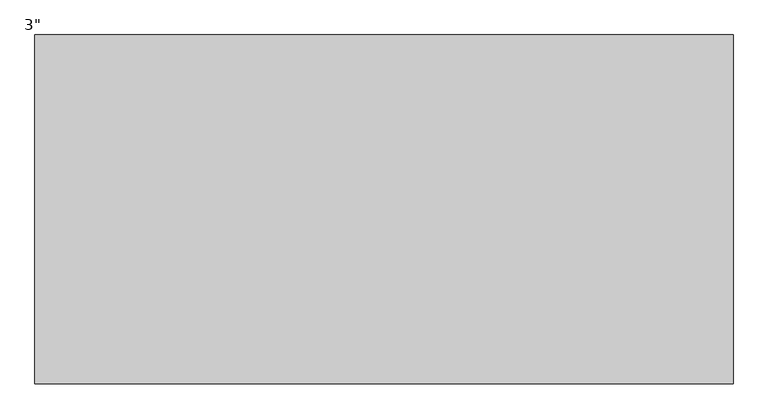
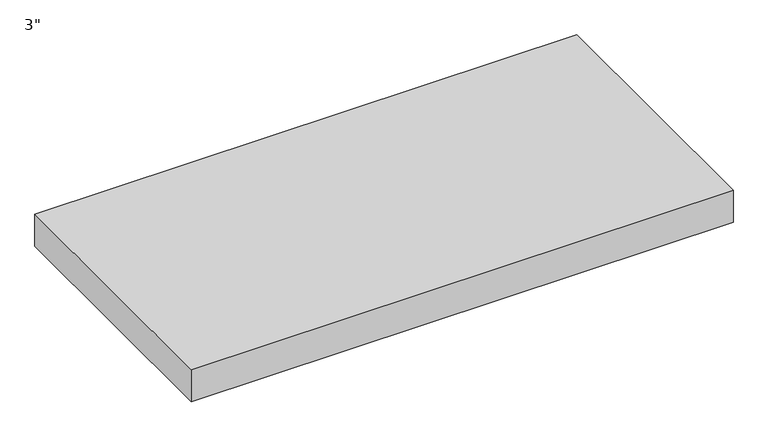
"""IFC4 building model written with IfcOpenShell, lengths in millimetres: proxy geometry."""

from ifc_helpers import new_model, si_unit, origin, origin_with_axes, place, context, project, spatial, polyline, outline, extrude, source, transform, mapped, element, save


def proxy_9e09e9f6(model_context):
    return source(origin(), model_context, "Body", "SweptSolid", [
        extrude(outline(polyline([(-609.6, -304.8), (-609.6, 304.8), (609.6, 304.8), (609.6, -304.8), (-609.6, -304.8)])), origin_with_axes(), (0.0, 0.0, 1.0), 76.2),
    ])


if __name__ == "__main__":
    model = new_model("IFC4")
    model_context = context("Model", 3, world=origin())
    ifc_project = project(units=[si_unit("LENGTHUNIT", "METRE", prefix="MILLI")], contexts=[model_context])
    site = spatial("IfcSite", under=ifc_project)
    building = spatial("IfcBuilding", under=site)
    placement = place(None, origin())
    proxy_shape = proxy_9e09e9f6(model_context)
    element("IfcBuildingElementProxy", 1, Name="Durabond Generic Model Equalite Insulation Board : 3\"", ObjectType="Durabond Generic Model Equalite Insulation Board : 3\"", at=placement, inside=building, context=model_context, shape_type="MappedRepresentation", body=[
        mapped(proxy_shape, transform((0.0, 0.0, 0.0), x_axis=(1.0, 0.0, 0.0), y_axis=(0.0, 1.0, 0.0), z_axis=(0.0, 0.0, 1.0))),
    ])
    save(model, "model.ifc")
